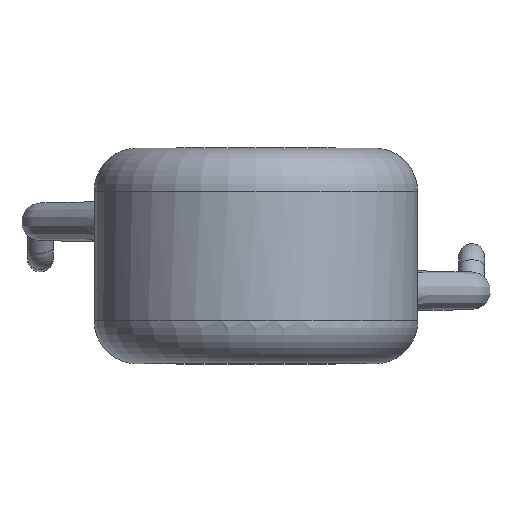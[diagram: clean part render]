
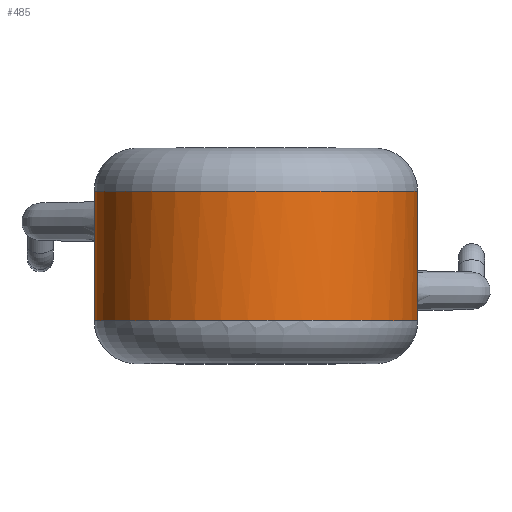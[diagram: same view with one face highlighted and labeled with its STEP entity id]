
A CAD part, top view. The second image highlights one B-rep face of the part: STEP entity #485.
In plain terms, the highlighted cylindrical face has radius 3.75 mm (diameter 7.5 mm), a full revolution.
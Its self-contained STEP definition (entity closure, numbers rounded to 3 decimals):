
#48=LINE('',#2078,#53);
#53=VECTOR('',#676,3.75);
#62=CYLINDRICAL_SURFACE('',#559,3.75);
#86=FACE_OUTER_BOUND('',#117,.T.);
#117=EDGE_LOOP('',(#412,#413,#414,#415,#416,#417,#418,#419,#420,#421,#422,
#423));
#145=CIRCLE('',#543,3.75);
#146=CIRCLE('',#544,3.75);
#147=CIRCLE('',#545,3.75);
#153=CIRCLE('',#552,3.75);
#154=CIRCLE('',#553,3.75);
#155=CIRCLE('',#554,3.75);
#177=B_SPLINE_CURVE_WITH_KNOTS('',3,(#960,#961,#962,#963,#964,#965,#966,
#967,#968,#969,#970,#971,#972,#973,#974,#975),.UNSPECIFIED.,.F.,.F.,(4,
3,3,3,3,4),(-0.125,-0.09,-0.056,
-0.038,-0.021,0.),
 .UNSPECIFIED.);
#178=B_SPLINE_CURVE_WITH_KNOTS('',3,(#976,#977,#978,#979,#980,#981,#982,
#983,#984,#985),.UNSPECIFIED.,.F.,.F.,(4,1,1,1,1,1,1,4),(-0.302,
-0.289,-0.272,-0.254,-0.237,
-0.22,-0.203,-0.185),.UNSPECIFIED.);
#186=B_SPLINE_CURVE_WITH_KNOTS('',3,(#1530,#1531,#1532,#1533,#1534,#1535,
#1536,#1537,#1538,#1539,#1540,#1541,#1542,#1543,#1544,#1545),
 .UNSPECIFIED.,.F.,.F.,(4,3,3,3,3,4),(-0.125,-0.09,
-0.056,-0.038,-0.021,0.),
 .UNSPECIFIED.);
#187=B_SPLINE_CURVE_WITH_KNOTS('',3,(#1546,#1547,#1548,#1549,#1550,#1551,
#1552,#1553,#1554,#1555),.UNSPECIFIED.,.F.,.F.,(4,1,1,1,1,1,1,4),(-0.302,
-0.289,-0.272,-0.254,-0.237,
-0.22,-0.203,-0.185),.UNSPECIFIED.);
#207=VERTEX_POINT('',#882);
#212=VERTEX_POINT('',#957);
#213=VERTEX_POINT('',#959);
#217=VERTEX_POINT('',#1375);
#218=VERTEX_POINT('',#1378);
#219=VERTEX_POINT('',#1452);
#224=VERTEX_POINT('',#1527);
#225=VERTEX_POINT('',#1529);
#229=VERTEX_POINT('',#1945);
#230=VERTEX_POINT('',#1948);
#266=EDGE_CURVE('',#212,#213,#177,.T.);
#267=EDGE_CURVE('',#213,#207,#178,.T.);
#274=EDGE_CURVE('',#217,#212,#145,.T.);
#275=EDGE_CURVE('',#207,#218,#146,.T.);
#276=EDGE_CURVE('',#218,#217,#147,.T.);
#283=EDGE_CURVE('',#224,#225,#186,.T.);
#284=EDGE_CURVE('',#225,#219,#187,.T.);
#291=EDGE_CURVE('',#229,#224,#153,.T.);
#292=EDGE_CURVE('',#219,#230,#154,.T.);
#293=EDGE_CURVE('',#230,#229,#155,.T.);
#298=EDGE_CURVE('',#230,#218,#48,.T.);
#412=ORIENTED_EDGE('',*,*,#283,.F.);
#413=ORIENTED_EDGE('',*,*,#291,.F.);
#414=ORIENTED_EDGE('',*,*,#293,.F.);
#415=ORIENTED_EDGE('',*,*,#298,.T.);
#416=ORIENTED_EDGE('',*,*,#275,.F.);
#417=ORIENTED_EDGE('',*,*,#267,.F.);
#418=ORIENTED_EDGE('',*,*,#266,.F.);
#419=ORIENTED_EDGE('',*,*,#274,.F.);
#420=ORIENTED_EDGE('',*,*,#276,.F.);
#421=ORIENTED_EDGE('',*,*,#298,.F.);
#422=ORIENTED_EDGE('',*,*,#292,.F.);
#423=ORIENTED_EDGE('',*,*,#284,.F.);
#485=ADVANCED_FACE('',(#86),#62,.T.);
#543=AXIS2_PLACEMENT_3D('',#1377,#642,#643);
#544=AXIS2_PLACEMENT_3D('',#1379,#644,#645);
#545=AXIS2_PLACEMENT_3D('',#1380,#646,#647);
#552=AXIS2_PLACEMENT_3D('',#1947,#660,#661);
#553=AXIS2_PLACEMENT_3D('',#1949,#662,#663);
#554=AXIS2_PLACEMENT_3D('',#1950,#664,#665);
#559=AXIS2_PLACEMENT_3D('',#2077,#674,#675);
#642=DIRECTION('center_axis',(0.,1.,0.));
#643=DIRECTION('ref_axis',(-1.,0.,0.));
#644=DIRECTION('center_axis',(0.,1.,0.));
#645=DIRECTION('ref_axis',(-1.,0.,0.));
#646=DIRECTION('center_axis',(0.,1.,0.));
#647=DIRECTION('ref_axis',(-1.,0.,0.));
#660=DIRECTION('center_axis',(0.,-1.,0.));
#661=DIRECTION('ref_axis',(-1.,0.,0.));
#662=DIRECTION('center_axis',(0.,-1.,0.));
#663=DIRECTION('ref_axis',(-1.,0.,0.));
#664=DIRECTION('center_axis',(0.,-1.,0.));
#665=DIRECTION('ref_axis',(-1.,0.,0.));
#674=DIRECTION('center_axis',(0.,-1.,0.));
#675=DIRECTION('ref_axis',(1.,0.,0.));
#676=DIRECTION('',(0.,1.,0.));
#882=CARTESIAN_POINT('',(-3.446,1.5,-1.479));
#957=CARTESIAN_POINT('',(-2.967,1.5,-2.294));
#959=CARTESIAN_POINT('',(-3.272,-0.058,-1.832));
#960=CARTESIAN_POINT('Ctrl Pts',(-2.967,1.5,-2.294));
#961=CARTESIAN_POINT('Ctrl Pts',(-2.872,1.377,-2.416));
#962=CARTESIAN_POINT('Ctrl Pts',(-2.796,1.189,-2.498));
#963=CARTESIAN_POINT('Ctrl Pts',(-2.769,0.984,-2.529));
#964=CARTESIAN_POINT('Ctrl Pts',(-2.742,0.779,-2.559));
#965=CARTESIAN_POINT('Ctrl Pts',(-2.763,0.556,-2.537));
#966=CARTESIAN_POINT('Ctrl Pts',(-2.824,0.373,-2.466));
#967=CARTESIAN_POINT('Ctrl Pts',(-2.855,0.282,-2.43));
#968=CARTESIAN_POINT('Ctrl Pts',(-2.896,0.2,-2.383));
#969=CARTESIAN_POINT('Ctrl Pts',(-2.942,0.133,-2.325));
#970=CARTESIAN_POINT('Ctrl Pts',(-2.988,0.067,-2.267));
#971=CARTESIAN_POINT('Ctrl Pts',(-3.039,0.015,-2.199));
#972=CARTESIAN_POINT('Ctrl Pts',(-3.09,-0.018,
-2.125));
#973=CARTESIAN_POINT('Ctrl Pts',(-3.152,-0.058,
-2.034));
#974=CARTESIAN_POINT('Ctrl Pts',(-3.214,-0.071,
-1.933));
#975=CARTESIAN_POINT('Ctrl Pts',(-3.271,-0.058,
-1.832));
#976=CARTESIAN_POINT('Ctrl Pts',(-3.271,-0.058,
-1.832));
#977=CARTESIAN_POINT('Ctrl Pts',(-3.307,-0.05,-1.768));
#978=CARTESIAN_POINT('Ctrl Pts',(-3.385,-0.007,
-1.621));
#979=CARTESIAN_POINT('Ctrl Pts',(-3.478,0.142,-1.408));
#980=CARTESIAN_POINT('Ctrl Pts',(-3.544,0.383,-1.229));
#981=CARTESIAN_POINT('Ctrl Pts',(-3.575,0.686,-1.134));
#982=CARTESIAN_POINT('Ctrl Pts',(-3.569,1.008,-1.151));
#983=CARTESIAN_POINT('Ctrl Pts',(-3.528,1.295,-1.275));
#984=CARTESIAN_POINT('Ctrl Pts',(-3.477,1.441,-1.406));
#985=CARTESIAN_POINT('Ctrl Pts',(-3.446,1.5,-1.479));
#1375=CARTESIAN_POINT('',(0.,1.5,3.75));
#1377=CARTESIAN_POINT('Origin',(0.,1.5,0.));
#1378=CARTESIAN_POINT('',(-3.75,1.5,0.));
#1379=CARTESIAN_POINT('Origin',(0.,1.5,0.));
#1380=CARTESIAN_POINT('Origin',(0.,1.5,0.));
#1452=CARTESIAN_POINT('',(3.446,-1.5,-1.479));
#1527=CARTESIAN_POINT('',(2.967,-1.5,-2.294));
#1529=CARTESIAN_POINT('',(3.272,0.058,-1.832));
#1530=CARTESIAN_POINT('Ctrl Pts',(2.967,-1.5,-2.294));
#1531=CARTESIAN_POINT('Ctrl Pts',(2.872,-1.377,-2.416));
#1532=CARTESIAN_POINT('Ctrl Pts',(2.796,-1.189,-2.498));
#1533=CARTESIAN_POINT('Ctrl Pts',(2.769,-0.984,-2.529));
#1534=CARTESIAN_POINT('Ctrl Pts',(2.742,-0.779,-2.559));
#1535=CARTESIAN_POINT('Ctrl Pts',(2.763,-0.556,-2.537));
#1536=CARTESIAN_POINT('Ctrl Pts',(2.824,-0.373,-2.466));
#1537=CARTESIAN_POINT('Ctrl Pts',(2.855,-0.282,-2.43));
#1538=CARTESIAN_POINT('Ctrl Pts',(2.896,-0.2,-2.383));
#1539=CARTESIAN_POINT('Ctrl Pts',(2.942,-0.133,-2.325));
#1540=CARTESIAN_POINT('Ctrl Pts',(2.988,-0.067,
-2.267));
#1541=CARTESIAN_POINT('Ctrl Pts',(3.039,-0.015,
-2.199));
#1542=CARTESIAN_POINT('Ctrl Pts',(3.09,0.018,-2.125));
#1543=CARTESIAN_POINT('Ctrl Pts',(3.152,0.058,-2.034));
#1544=CARTESIAN_POINT('Ctrl Pts',(3.214,0.071,-1.933));
#1545=CARTESIAN_POINT('Ctrl Pts',(3.271,0.058,-1.832));
#1546=CARTESIAN_POINT('Ctrl Pts',(3.271,0.058,-1.832));
#1547=CARTESIAN_POINT('Ctrl Pts',(3.307,0.05,-1.768));
#1548=CARTESIAN_POINT('Ctrl Pts',(3.385,0.007,
-1.621));
#1549=CARTESIAN_POINT('Ctrl Pts',(3.478,-0.142,-1.408));
#1550=CARTESIAN_POINT('Ctrl Pts',(3.544,-0.383,-1.229));
#1551=CARTESIAN_POINT('Ctrl Pts',(3.575,-0.686,-1.134));
#1552=CARTESIAN_POINT('Ctrl Pts',(3.569,-1.008,-1.151));
#1553=CARTESIAN_POINT('Ctrl Pts',(3.528,-1.295,-1.275));
#1554=CARTESIAN_POINT('Ctrl Pts',(3.477,-1.441,-1.406));
#1555=CARTESIAN_POINT('Ctrl Pts',(3.446,-1.5,-1.479));
#1945=CARTESIAN_POINT('',(0.,-1.5,-3.75));
#1947=CARTESIAN_POINT('Origin',(0.,-1.5,0.));
#1948=CARTESIAN_POINT('',(-3.75,-1.5,0.));
#1949=CARTESIAN_POINT('Origin',(0.,-1.5,0.));
#1950=CARTESIAN_POINT('Origin',(0.,-1.5,0.));
#2077=CARTESIAN_POINT('Origin',(0.,0.,
0.));
#2078=CARTESIAN_POINT('',(-3.75,0.,0.));
